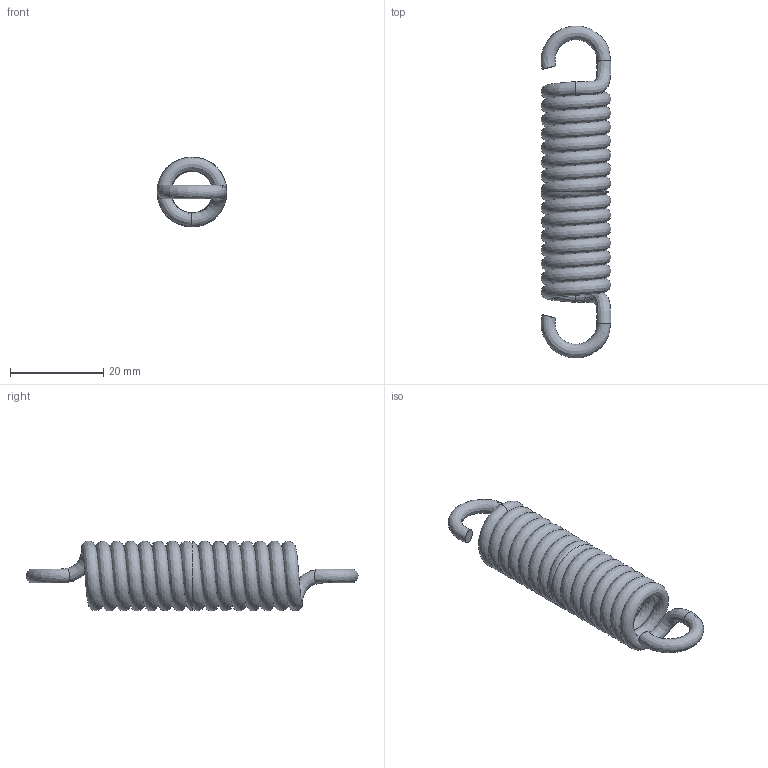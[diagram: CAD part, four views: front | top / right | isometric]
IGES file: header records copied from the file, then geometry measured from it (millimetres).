
Global section: file name: T120702; native system: Autodesk Inventor 2026; preprocessor: unknown; author: J. Iwanek; date: 20261005.100034; units: millimetre
Bounding box: 14.98 x 71.28 x 15 mm (x, y, z)
Volume: 4420.4 mm3; surface area: 5922 mm2
Topology: 1 solids, 1 shells, 10 faces, 36 edges, 24 vertices
Faces by surface type: bspline 10
